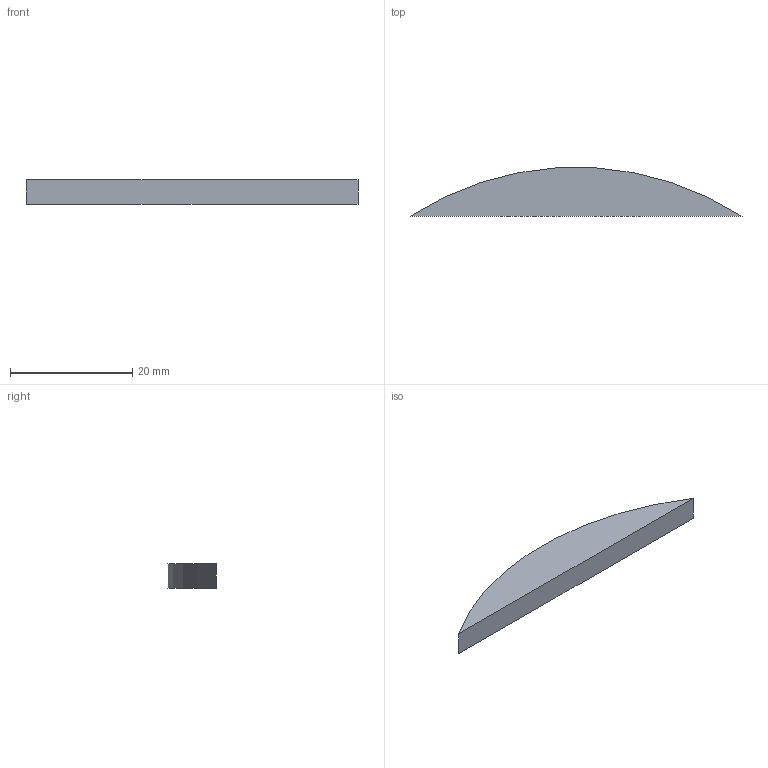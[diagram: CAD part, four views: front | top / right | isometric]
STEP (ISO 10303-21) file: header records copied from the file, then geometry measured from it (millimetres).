
FILE_DESCRIPTION(/* description */ (''),/* implementation_level */ '2;1');
FILE_NAME(/* name */ 'C:\Users\matthiask.LAMELLONET\Desktop\Nut_4mm_D100x8mm.stp',/* time_stamp */ '2021-07-08T15:47:26+02:00',/* author */ ('matthiask'),/* organization */ (''),/* preprocessor_version */ 'ST-DEVELOPER v18',/* originating_system */ 'Autodesk Inventor 2020',/* authorisation */ '');
FILE_SCHEMA (('AUTOMOTIVE_DESIGN { 1 0 10303 214 3 1 1 }'));
Length unit declared in the file: millimetre
Products named in the file (1): Nut 4mm D100x8mm
Bounding box: 54.26 x 7.9 x 4 mm (x, y, z)
Volume: 1177.4 mm3; surface area: 1035.1 mm2
Topology: 1 solids, 1 shells, 4 faces, 6 edges, 4 vertices
Faces by surface type: plane 3, cylinder 1
Entity records: 146 total; most frequent: DIRECTION 18, CARTESIAN_POINT 15, ORIENTED_EDGE 12, AXIS2_PLACEMENT_3D 7, EDGE_CURVE 6, STYLED_ITEM 5, FACE_OUTER_BOUND 4, EDGE_LOOP 4
